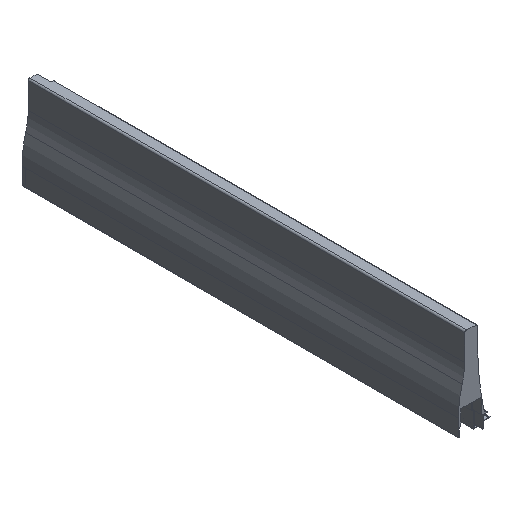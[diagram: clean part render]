
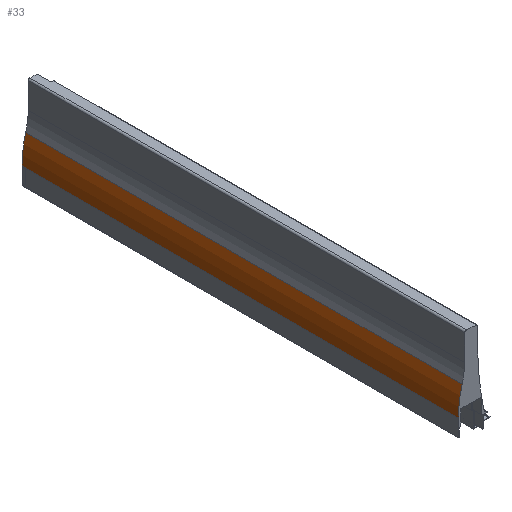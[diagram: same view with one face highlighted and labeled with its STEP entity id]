
A CAD part, isometric view. The second image highlights one B-rep face of the part: STEP entity #33.
In plain terms, the highlighted cylindrical face has radius 130.3 mm (diameter 260.6 mm), a partial arc.
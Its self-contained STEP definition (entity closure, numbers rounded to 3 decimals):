
#33 = ADVANCED_FACE ( 'NONE', ( #2278 ), #2282, .T. ) ;
#308 = VERTEX_POINT ( 'NONE', #3679 ) ;
#392 = VERTEX_POINT ( 'NONE', #3742 ) ;
#395 = VERTEX_POINT ( 'NONE', #3745 ) ;
#399 = VERTEX_POINT ( 'NONE', #3749 ) ;
#543 = EDGE_CURVE ( 'NONE', #308, #395, #2104, .T. ) ;
#586 = EDGE_CURVE ( 'NONE', #395, #392, #2054, .T. ) ;
#600 = EDGE_CURVE ( 'NONE', #308, #399, #2034, .T. ) ;
#604 = EDGE_CURVE ( 'NONE', #399, #392, #2041, .T. ) ;
#720 = AXIS2_PLACEMENT_3D ( 'NONE', #1432, #1433, #1434 ) ;
#933 = AXIS2_PLACEMENT_3D ( 'NONE', #3969, #3970, #3971 ) ;
#1060 = AXIS2_PLACEMENT_3D ( 'NONE', #3940, #3944, #3945 ) ;
#1432 = CARTESIAN_POINT ( 'NONE',  ( 126.2, 540., -7.695 ) ) ;
#1433 = DIRECTION ( 'NONE',  ( 0., -1., 0. ) ) ;
#1434 = DIRECTION ( 'NONE',  ( -1., 0., 0. ) ) ;
#2031 = VECTOR ( 'NONE', #3979, 1000. ) ;
#2034 = CIRCLE ( 'NONE', #933, 130.3 ) ;
#2041 = LINE ( 'NONE', #3975, #2031 ) ;
#2054 = CIRCLE ( 'NONE', #1060, 130.3 ) ;
#2102 = VECTOR ( 'NONE', #3892, 1000. ) ;
#2104 = LINE ( 'NONE', #3884, #2102 ) ;
#2278 = FACE_OUTER_BOUND ( 'NONE', #3328, .T. ) ;
#2282 = CYLINDRICAL_SURFACE ( 'NONE', #720, 130.3 ) ;
#2754 = ORIENTED_EDGE ( 'NONE', *, *, #586, .F. ) ;
#2755 = ORIENTED_EDGE ( 'NONE', *, *, #543, .F. ) ;
#2756 = ORIENTED_EDGE ( 'NONE', *, *, #600, .T. ) ;
#2757 = ORIENTED_EDGE ( 'NONE', *, *, #604, .T. ) ;
#3328 = EDGE_LOOP ( 'NONE', ( #2754, #2755, #2756, #2757 ) ) ;
#3679 = CARTESIAN_POINT ( 'NONE',  ( 0.401, 540., 26.255 ) ) ;
#3742 = CARTESIAN_POINT ( 'NONE',  ( -4.1, 0., -7.695 ) ) ;
#3745 = CARTESIAN_POINT ( 'NONE',  ( 0.401, 0., 26.255 ) ) ;
#3749 = CARTESIAN_POINT ( 'NONE',  ( -4.1, 540., -7.695 ) ) ;
#3884 = CARTESIAN_POINT ( 'NONE',  ( 0.401, 540., 26.255 ) ) ;
#3892 = DIRECTION ( 'NONE',  ( 0., -1., 0. ) ) ;
#3940 = CARTESIAN_POINT ( 'NONE',  ( 126.2, 0., -7.695 ) ) ;
#3944 = DIRECTION ( 'NONE',  ( 0., -1., 0. ) ) ;
#3945 = DIRECTION ( 'NONE',  ( 1., 0., 0. ) ) ;
#3969 = CARTESIAN_POINT ( 'NONE',  ( 126.2, 540., -7.695 ) ) ;
#3970 = DIRECTION ( 'NONE',  ( 0., -1., 0. ) ) ;
#3971 = DIRECTION ( 'NONE',  ( 1., 0., 0. ) ) ;
#3975 = CARTESIAN_POINT ( 'NONE',  ( -4.1, 540., -7.695 ) ) ;
#3979 = DIRECTION ( 'NONE',  ( 0., -1., 0. ) ) ;
